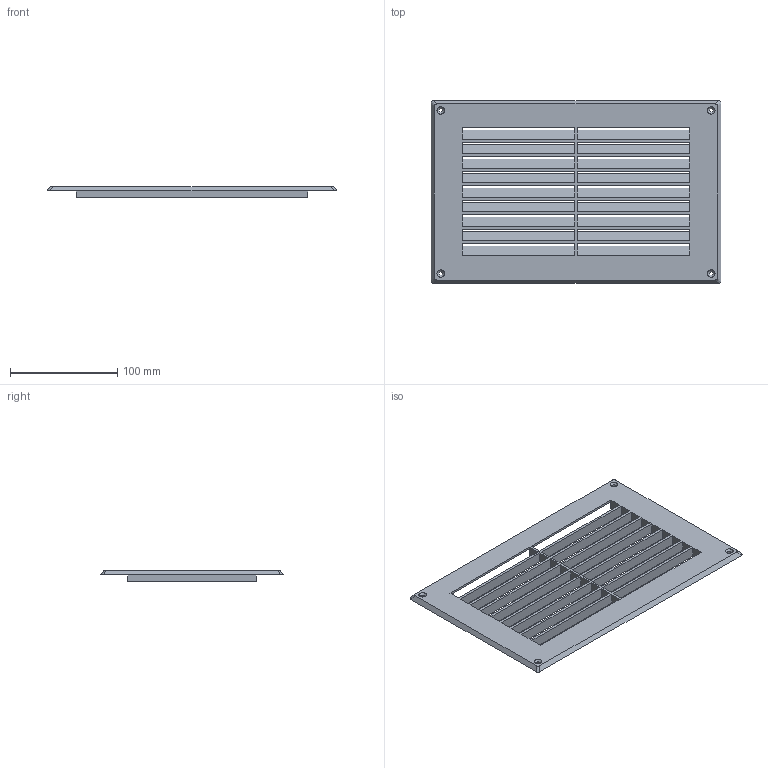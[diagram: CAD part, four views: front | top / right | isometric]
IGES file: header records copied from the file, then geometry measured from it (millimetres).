
Global section: file name: DR_GR-PVC-270-170; native system: Autodesk Inventor 2015; preprocessor: unknown; author: user; date: 20171013.132746; units: millimetre
Bounding box: 270 x 170 x 10 mm (x, y, z)
Volume: 172096.6 mm3; surface area: 117232.3 mm2
Topology: 1 solids, 1 shells, 118 faces, 332 edges, 220 vertices
Faces by surface type: bspline 118
